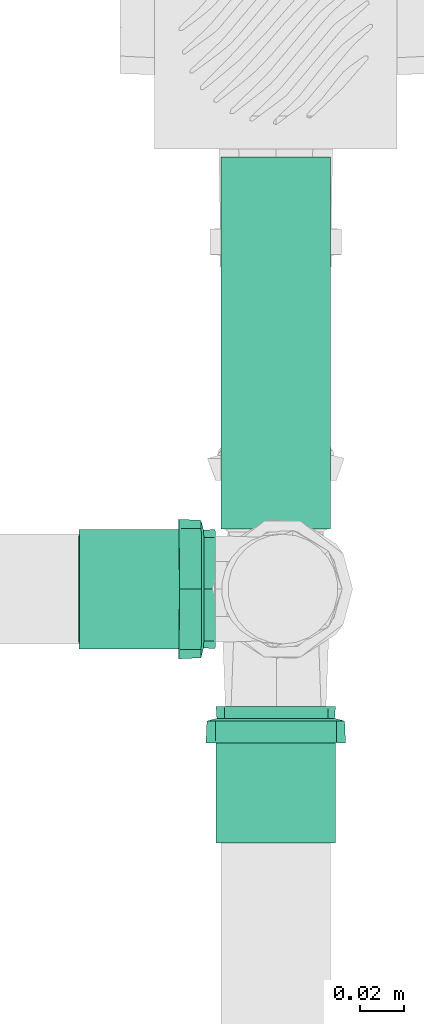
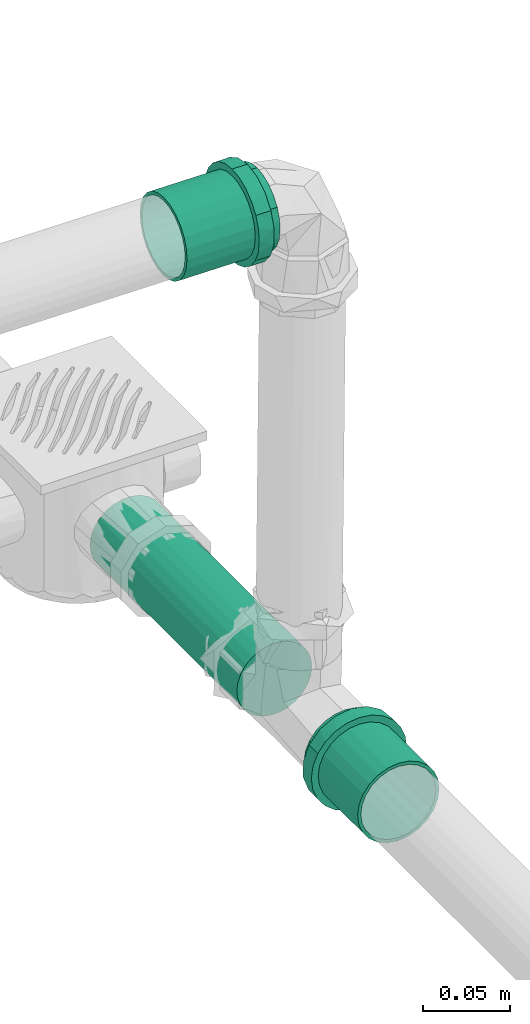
# One storey, part 184 of 589: 2 flow fittings, 1 flow segment.
"""IFC2X3 building model written with IfcOpenShell, lengths in millimetres."""

from ifc_helpers import new_model, entity, si_unit, converted_unit, derived_unit, direction, frame, origin, origin_2d_with_axis, place, context, subcontext, project, spatial, circle, extrude, faceted_brep, source, transform, mapped, material, type_object, type_shapes, element, save


model = new_model("IFC2X3")

# Units and contexts
model_context = context("Model", 3, precision=0.01, world=origin(), true_north=direction((6.123031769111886e-17, 1.0)))
body_context = subcontext(model_context, "Body", "Model", "MODEL_VIEW")
ifc_project = project(units=[si_unit("LENGTHUNIT", "METRE", prefix="MILLI"), si_unit("AREAUNIT", "SQUARE_METRE"), si_unit("VOLUMEUNIT", "CUBIC_METRE"), converted_unit("PLANEANGLEUNIT", "DEGREE", entity("IfcRatioMeasure", 0.017453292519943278), si_unit("PLANEANGLEUNIT", "RADIAN"), dimensions=[0, 0, 0, 0, 0, 0, 0]), si_unit("MASSUNIT", "GRAM", prefix="KILO"), derived_unit("MASSDENSITYUNIT", [(si_unit("MASSUNIT", "GRAM", prefix="KILO"), 1), (si_unit("LENGTHUNIT", "METRE"), -3)]), derived_unit("IONCONCENTRATIONUNIT", [(si_unit("MASSUNIT", "GRAM", prefix="KILO"), 1), (si_unit("LENGTHUNIT", "METRE"), -3)]), derived_unit("MOMENTOFINERTIAUNIT", [(si_unit("LENGTHUNIT", "METRE"), 4)]), si_unit("TIMEUNIT", "SECOND"), si_unit("FREQUENCYUNIT", "HERTZ"), si_unit("THERMODYNAMICTEMPERATUREUNIT", "DEGREE_CELSIUS"), derived_unit("THERMALTRANSMITTANCEUNIT", [(si_unit("MASSUNIT", "GRAM", prefix="KILO"), 1), (si_unit("THERMODYNAMICTEMPERATUREUNIT", "KELVIN"), -1), (si_unit("TIMEUNIT", "SECOND"), -3)]), derived_unit("THERMALCONDUCTANCEUNIT", [(si_unit("MASSUNIT", "GRAM", prefix="KILO"), 1), (si_unit("THERMODYNAMICTEMPERATUREUNIT", "KELVIN"), -1), (si_unit("TIMEUNIT", "SECOND"), -3), (si_unit("LENGTHUNIT", "METRE"), 1)]), derived_unit("VOLUMETRICFLOWRATEUNIT", [(si_unit("LENGTHUNIT", "METRE"), 3), (si_unit("TIMEUNIT", "SECOND"), -1)]), derived_unit("MASSFLOWRATEUNIT", [(si_unit("MASSUNIT", "GRAM", prefix="KILO"), 1), (si_unit("TIMEUNIT", "SECOND"), -1)]), derived_unit("ROTATIONALFREQUENCYUNIT", [(si_unit("TIMEUNIT", "SECOND"), -1)]), si_unit("ELECTRICCURRENTUNIT", "AMPERE"), si_unit("ELECTRICVOLTAGEUNIT", "VOLT"), si_unit("POWERUNIT", "WATT"), si_unit("FORCEUNIT", "NEWTON", prefix="KILO"), si_unit("ILLUMINANCEUNIT", "LUX"), si_unit("LUMINOUSFLUXUNIT", "LUMEN"), si_unit("LUMINOUSINTENSITYUNIT", "CANDELA"), derived_unit("USERDEFINED", [(si_unit("MASSUNIT", "GRAM", prefix="KILO"), -1), (si_unit("LENGTHUNIT", "METRE"), -2), (si_unit("TIMEUNIT", "SECOND"), 3), (si_unit("LUMINOUSFLUXUNIT", "LUMEN"), 1)]), derived_unit("USERDEFINED", [(si_unit("MASSUNIT", "GRAM", prefix="KILO"), 1), (si_unit("TIMEUNIT", "SECOND"), -3), (si_unit("LENGTHUNIT", "METRE"), 3), (si_unit("ELECTRICCURRENTUNIT", "AMPERE"), -2)]), derived_unit("SOUNDPOWERUNIT", [(si_unit("MASSUNIT", "GRAM", prefix="KILO"), 1), (si_unit("TIMEUNIT", "SECOND"), -3), (si_unit("LENGTHUNIT", "METRE"), 2)]), derived_unit("SOUNDPRESSUREUNIT", [(si_unit("MASSUNIT", "GRAM", prefix="KILO"), 1), (si_unit("LENGTHUNIT", "METRE"), -1), (si_unit("TIMEUNIT", "SECOND"), -2)]), derived_unit("LINEARVELOCITYUNIT", [(si_unit("LENGTHUNIT", "METRE"), 1), (si_unit("TIMEUNIT", "SECOND"), -1)]), si_unit("PRESSUREUNIT", "PASCAL"), derived_unit("USERDEFINED", [(si_unit("MASSUNIT", "GRAM", prefix="KILO"), 1), (si_unit("LENGTHUNIT", "METRE"), -2), (si_unit("TIMEUNIT", "SECOND"), -2)]), derived_unit("LINEARFORCEUNIT", [(si_unit("MASSUNIT", "GRAM", prefix="KILO"), 1), (si_unit("TIMEUNIT", "SECOND"), -2)]), derived_unit("PLANARFORCEUNIT", [(si_unit("MASSUNIT", "GRAM", prefix="KILO"), 1), (si_unit("LENGTHUNIT", "METRE"), -1), (si_unit("TIMEUNIT", "SECOND"), -2)]), derived_unit("SPECIFICHEATCAPACITYUNIT", [(si_unit("THERMODYNAMICTEMPERATUREUNIT", "KELVIN"), -1), (si_unit("LENGTHUNIT", "METRE"), 2), (si_unit("TIMEUNIT", "SECOND"), -2)]), derived_unit("HEATINGVALUEUNIT", [(si_unit("LENGTHUNIT", "METRE"), 2), (si_unit("TIMEUNIT", "SECOND"), -2)]), derived_unit("VAPORPERMEABILITYUNIT", [(si_unit("LENGTHUNIT", "METRE"), -1), (si_unit("TIMEUNIT", "SECOND"), 1)]), derived_unit("DYNAMICVISCOSITYUNIT", [(si_unit("MASSUNIT", "GRAM", prefix="KILO"), 1), (si_unit("TIMEUNIT", "SECOND"), -1), (si_unit("LENGTHUNIT", "METRE"), -1)]), derived_unit("THERMALEXPANSIONCOEFFICIENTUNIT", [(si_unit("THERMODYNAMICTEMPERATUREUNIT", "KELVIN"), -1)]), derived_unit("MODULUSOFELASTICITYUNIT", [(si_unit("MASSUNIT", "GRAM", prefix="KILO"), 1), (si_unit("LENGTHUNIT", "METRE"), -1), (si_unit("TIMEUNIT", "SECOND"), -2)]), derived_unit("ISOTHERMALMOISTURECAPACITYUNIT", [(si_unit("LENGTHUNIT", "METRE"), 3), (si_unit("MASSUNIT", "GRAM", prefix="KILO"), -1)]), derived_unit("MOISTUREDIFFUSIVITYUNIT", [(si_unit("TIMEUNIT", "SECOND"), -1), (si_unit("LENGTHUNIT", "METRE"), 2)])], contexts=[model_context])

# Site, building, storey
site_placement = place(None, origin())
site = spatial("IfcSite", under=ifc_project, at=site_placement, Name="Default", CompositionType="ELEMENT")
building_placement = place(site_placement, origin())
building = spatial("IfcBuilding", under=site, at=building_placement, CompositionType="ELEMENT")
storey_placement = place(building_placement, frame((0.0, 0.0, 100.0)))
storey = spatial("IfcBuildingStorey", under=building, at=storey_placement, Name="TÉRREO", CompositionType="ELEMENT", Elevation=100.0)

# Flow segment
pipe_segment_type = type_object("IfcPipeSegmentType", Name="Tipos de tubos:PVC Esgoto Série Normal", PredefinedType="NOTDEFINED")
flow_segment_placement = place(storey_placement, origin())
element("IfcFlowSegment", 1, at=flow_segment_placement, inside=storey, type_object=pipe_segment_type, Name="Tipos de tubos:PVC Esgoto Série Normal", ObjectType="Tipos de tubos:PVC Esgoto Série Normal", context=body_context, shape_type="SweptSolid", body=[
    extrude(circle(Radius=25.0, at=origin_2d_with_axis()), frame((10266.454903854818, -4752.53904253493, -278.334135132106), z_axis=(0.0, 1.0, 0.0), x_axis=(-1.0, 0.0, 0.0)), (0.0, 0.0, 1.0), 169.33170719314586),
])

# Flow fittings
ifc_material = material(Name="PVC Série Normal")
pipe_fitting_type = type_object("IfcPipeFittingType", Name="PVC Esgoto_Luva Simples para Conexão_Rodrigo MEP:Standard", PredefinedType="NOTDEFINED", material=ifc_material)
shared_shape = source(origin(), body_context, "Body", "Brep", [
    faceted_brep([(16.599999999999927, 15.900000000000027, -27.53960784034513), (16.599999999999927, 22.485995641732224, -22.485995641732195), (16.599999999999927, 13.599999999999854, -23.555890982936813), (16.599999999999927, 7.039878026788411, -26.273182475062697), (16.599999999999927, 8.2304456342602, -30.71644127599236), (16.599999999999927, 19.233304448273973, -19.233304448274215), (16.599999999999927, 27.539607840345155, -15.899999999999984), (16.599999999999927, 23.55589098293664, -13.600000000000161), (16.599999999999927, 26.273182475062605, -7.03987802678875), (16.599999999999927, 30.716441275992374, -8.230445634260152), (16.599999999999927, 27.2, 0.0), (16.599999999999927, 31.8, 0.0), (16.599999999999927, 26.273182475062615, 7.0398780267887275), (16.599999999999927, 30.71644127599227, 8.23044563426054), (16.599999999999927, 23.555890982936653, 13.60000000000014), (16.599999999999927, 27.539607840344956, 15.900000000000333), (16.599999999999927, 19.233304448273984, 19.2333044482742), (16.599999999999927, 22.485995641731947, 22.48599564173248), (16.599999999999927, 13.599999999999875, 23.555890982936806), (16.599999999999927, 15.899999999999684, 27.53960784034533), (16.599999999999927, 7.039878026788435, 26.27318247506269), (16.599999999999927, 8.230445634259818, 30.716441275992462), (16.599999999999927, 0.0, 27.2), (16.599999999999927, 0.0, 31.8), (16.599999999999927, -7.039878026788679, 26.273182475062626), (16.599999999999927, -8.230445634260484, 30.716441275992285), (16.599999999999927, -13.600000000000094, 23.555890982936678), (16.599999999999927, -15.900000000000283, 27.53960784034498), (16.599999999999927, -19.23330444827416, 19.233304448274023), (16.599999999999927, -22.485995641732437, 22.48599564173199), (16.599999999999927, -23.55589098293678, 13.59999999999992), (16.599999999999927, -27.539607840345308, 15.899999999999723), (16.599999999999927, -30.71644127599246, 8.230445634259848), (16.599999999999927, -26.273182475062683, 7.039878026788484), (16.599999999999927, -31.8, 0.0), (16.599999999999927, -27.2, 0.0), (16.599999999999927, -30.71644127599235, -8.23044563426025), (16.599999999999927, -26.273182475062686, -7.03987802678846), (16.599999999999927, -27.53960784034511, -15.90000000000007), (16.599999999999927, -23.55589098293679, -13.599999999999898), (16.599999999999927, -22.485995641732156, -22.485995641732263), (16.599999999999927, -19.233304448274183, -19.233304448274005), (16.599999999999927, -15.899999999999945, -27.53960784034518), (16.599999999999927, -13.600000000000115, -23.555890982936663), (16.599999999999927, -8.230445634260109, -30.716441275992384), (16.599999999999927, -7.039878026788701, -26.273182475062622), (16.599999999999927, 0.0, -31.8), (16.599999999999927, 0.0, -27.2), (6.500000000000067, -10.708108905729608, 29.429219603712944), (6.500000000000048, -24.359073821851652, 20.44200387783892), (6.500000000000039, -27.120498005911, 15.6595386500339), (6.50000000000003, -29.881922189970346, 10.877073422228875), (6.500000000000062, -15.89769721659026, 27.540937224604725), (6.500000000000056, -20.128385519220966, 23.991470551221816), (6.50000000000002, -30.840961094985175, 5.438536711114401), (6.5000000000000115, -31.8, 0.0), (6.50000000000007, -5.518520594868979, 31.317501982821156), (6.500000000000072, 5.526376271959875, 31.316116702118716), (6.50000000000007, 0.00392783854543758, 31.316809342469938), (6.500000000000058, 20.134403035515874, 23.986420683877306), (6.500000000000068, 10.715490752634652, 29.42653259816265), (6.500000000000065, 15.904605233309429, 27.536948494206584), (6.500000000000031, 29.8846497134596, 10.869577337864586), (6.500000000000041, 27.12442527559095, 15.652735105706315), (6.5000000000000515, 24.364200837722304, 20.435892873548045), (6.5000000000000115, 31.8, 0.0), (6.499999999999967, 24.364200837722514, -20.435892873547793), (6.499999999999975, 27.12442527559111, -15.652735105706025), (6.499999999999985, 29.884649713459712, -10.869577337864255), (6.4999999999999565, 15.904605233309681, -27.53694849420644), (6.499999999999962, 20.134403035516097, -23.986420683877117), (6.499999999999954, 10.715490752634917, -29.42653259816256), (6.499999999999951, 5.526376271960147, -31.31611670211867), (6.499999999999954, -5.518520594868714, -31.317501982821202), (6.499999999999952, 0.003927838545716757, -31.316809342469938), (6.499999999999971, -20.128385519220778, -23.99147055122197), (6.499999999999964, -15.897697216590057, -27.54093722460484), (6.499999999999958, -10.70810890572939, -29.42921960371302), (6.499999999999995, -29.881922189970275, -10.877073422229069), (6.499999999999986, -27.12049800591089, -15.659538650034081), (6.499999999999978, -24.359073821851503, -20.442003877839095), (6.500000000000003, -30.840961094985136, -5.438536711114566), (6.499999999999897, -30.696173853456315, -6.259599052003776), (62.0, 13.600000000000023, -23.55589098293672), (62.0, 19.233304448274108, -19.23330444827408), (62.0, 12.499999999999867, -21.650635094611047), (62.0, 6.470476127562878, -24.14814565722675), (62.0, 7.039878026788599, -26.273182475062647), (62.0, 17.677669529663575, -17.677669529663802), (62.0, 23.55589098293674, -13.599999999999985), (62.0, 21.65063509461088, -12.50000000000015), (62.0, 24.148145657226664, -6.470476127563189), (62.0, 26.27318247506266, -7.039878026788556), (62.0, 25.0, 0.0), (62.0, 27.2, 0.0), (62.0, 24.148145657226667, 6.4704761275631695), (62.0, 26.273182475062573, 7.03987802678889), (62.0, 21.650635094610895, 12.500000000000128), (62.0, 23.555890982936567, 13.600000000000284), (62.0, 17.67766952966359, 17.67766952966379), (62.0, 19.233304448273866, 19.233304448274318), (62.0, 12.499999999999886, 21.650635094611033), (62.0, 13.59999999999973, 23.55589098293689), (62.0, 6.4704761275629, 24.14814565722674), (62.0, 7.039878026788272, 26.273182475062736), (62.0, 0.0, 25.0), (62.0, 0.0, 27.2), (62.0, -6.470476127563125, 24.148145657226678), (62.0, -7.039878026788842, 26.273182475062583), (62.0, -12.500000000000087, 21.650635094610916), (62.0, -13.600000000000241, 23.555890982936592), (62.0, -17.677669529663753, 17.677669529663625), (62.0, -19.233304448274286, 19.2333044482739), (62.0, -21.65063509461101, 12.499999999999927), (62.0, -23.555890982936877, 13.599999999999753), (62.0, -26.27318247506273, 7.039878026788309), (62.0, -24.14814565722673, 6.470476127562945), (62.0, -27.2, 0.0), (62.0, -25.0, 0.0), (62.0, -26.27318247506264, -7.0398780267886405), (62.0, -24.148145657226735, -6.470476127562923), (62.0, -23.5558909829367, -13.600000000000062), (62.0, -21.650635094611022, -12.499999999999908), (62.0, -19.233304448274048, -19.233304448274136), (62.0, -17.67766952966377, -17.677669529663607), (62.0, -13.599999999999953, -23.555890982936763), (62.0, -12.500000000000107, -21.650635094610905), (62.0, -7.039878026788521, -26.27318247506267), (62.0, -6.470476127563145, -24.148145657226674), (62.0, 0.0, -27.2), (62.0, 0.0, -25.0), (0.0, 12.499999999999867, -21.650635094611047), (0.0, 19.233304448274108, -19.23330444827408), (0.0, 13.600000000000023, -23.55589098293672), (0.0, 6.470476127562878, -24.14814565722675), (0.0, 17.677669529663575, -17.677669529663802), (0.0, 23.55589098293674, -13.599999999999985), (0.0, 21.65063509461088, -12.50000000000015), (0.0, 24.148145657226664, -6.470476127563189), (0.0, 26.27318247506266, -7.039878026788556), (0.0, 25.0, 0.0), (0.0, 27.2, 0.0), (0.0, 24.148145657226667, 6.4704761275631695), (0.0, 26.273182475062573, 7.03987802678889), (0.0, 21.650635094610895, 12.500000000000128), (0.0, 23.555890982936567, 13.600000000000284), (0.0, 17.67766952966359, 17.67766952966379), (0.0, 19.233304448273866, 19.233304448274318), (0.0, 12.499999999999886, 21.650635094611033), (0.0, 13.59999999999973, 23.55589098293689), (0.0, 6.4704761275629, 24.14814565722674), (0.0, 7.039878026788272, 26.273182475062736), (0.0, 0.0, 25.0), (0.0, 0.0, 27.2), (0.0, -6.470476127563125, 24.148145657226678), (0.0, -7.039878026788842, 26.273182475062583), (0.0, -12.500000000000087, 21.650635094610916), (0.0, -13.600000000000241, 23.555890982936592), (0.0, -17.677669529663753, 17.677669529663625), (0.0, -19.233304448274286, 19.2333044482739), (0.0, -21.65063509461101, 12.499999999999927), (0.0, -23.555890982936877, 13.599999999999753), (0.0, -26.27318247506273, 7.039878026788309), (0.0, -24.14814565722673, 6.470476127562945), (0.0, -27.2, 0.0), (0.0, -25.0, 0.0), (0.0, -26.27318247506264, -7.0398780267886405), (0.0, -24.148145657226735, -6.470476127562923), (0.0, -23.5558909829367, -13.600000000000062), (0.0, -21.650635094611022, -12.499999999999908), (0.0, -19.233304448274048, -19.233304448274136), (0.0, -17.67766952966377, -17.677669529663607), (0.0, -13.599999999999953, -23.555890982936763), (0.0, -12.500000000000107, -21.650635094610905), (0.0, -7.039878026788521, -26.27318247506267), (0.0, -6.470476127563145, -24.148145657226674), (0.0, 0.0, -27.2), (0.0, 0.0, -25.0), (0.0, 7.039878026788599, -26.273182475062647), (5.300000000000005, -26.37968999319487, 4.651830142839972), (5.299999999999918, -26.25584678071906, 5.354122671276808), (5.300000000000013, -25.559379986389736, 9.303660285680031), (5.300000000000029, -20.835434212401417, 17.48498444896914), (5.300000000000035, -17.216732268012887, 20.521006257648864), (5.300000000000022, -23.19740709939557, 13.394322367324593), (5.3000000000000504, -4.720244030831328, 26.787297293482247), (5.300000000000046, -9.15913717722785, 25.172162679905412), (5.299999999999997, -27.2, 0.0), (5.300000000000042, -13.598030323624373, 23.557028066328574), (5.300000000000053, 9.165451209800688, 25.169864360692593), (5.300000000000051, 13.603939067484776, 23.55361632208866), (5.300000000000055, 4.7269633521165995, 26.786112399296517), (5.300000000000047, 17.221879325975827, 20.516686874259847), (5.300000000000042, 20.839819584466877, 17.479757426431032), (5.3000000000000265, 25.56171296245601, 9.297248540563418), (5.299999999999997, 27.2, 0.0), (5.3000000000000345, 23.20076627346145, 13.388502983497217), (5.300000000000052, 0.003359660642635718, 26.786704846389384), (5.299999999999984, 25.56171296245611, -9.29724854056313), (5.299999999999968, 20.839819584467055, -17.47975742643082), (5.2999999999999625, 17.22187932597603, -20.516686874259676), (5.299999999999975, 23.200766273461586, -13.388502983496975), (5.299999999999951, 4.726963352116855, -26.78611239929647), (5.2999999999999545, 9.165451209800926, -25.169864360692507), (5.299999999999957, 13.603939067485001, -23.553616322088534), (5.29999999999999, -26.379689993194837, -4.651830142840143), (5.299999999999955, -9.159137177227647, -25.17216267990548), (5.299999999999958, -13.5980303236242, -23.55702806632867), (5.299999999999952, -4.720244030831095, -26.787297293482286), (5.299999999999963, -17.216732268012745, -20.52100625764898), (5.299999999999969, -20.83543421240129, -17.484984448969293), (5.299999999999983, -25.559379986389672, -9.303660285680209), (5.299999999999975, -23.197407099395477, -13.394322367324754), (5.299999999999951, 0.003359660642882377, -26.78670484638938), (39.0, -25.0, 0.0), (39.0, 25.0, 0.0)], [[[0, 1, 2]], [[0, 2, 3]], [[3, 4, 0]], [[2, 1, 5]], [[6, 5, 1]], [[7, 5, 6]], [[8, 7, 6]], [[8, 6, 9]], [[8, 9, 10]], [[10, 9, 11]], [[12, 10, 11]], [[12, 11, 13]], [[14, 12, 13]], [[14, 13, 15]], [[16, 14, 15]], [[15, 17, 16]], [[17, 18, 16]], [[17, 19, 18]], [[18, 19, 20]], [[21, 20, 19]], [[20, 21, 22]], [[22, 21, 23]], [[22, 23, 24]], [[24, 23, 25]], [[24, 25, 26]], [[27, 26, 25]], [[27, 28, 26]], [[28, 27, 29]], [[30, 28, 29]], [[31, 30, 29]], [[32, 30, 31]], [[33, 30, 32]], [[33, 32, 34]], [[35, 33, 34]], [[36, 35, 34]], [[36, 37, 35]], [[37, 36, 38]], [[39, 37, 38]], [[39, 38, 40]], [[39, 40, 41]], [[40, 42, 41]], [[41, 42, 43]], [[43, 42, 44]], [[44, 45, 43]], [[46, 45, 44]], [[4, 47, 46]], [[46, 47, 45]], [[4, 3, 47]], [[48, 27, 25]], [[31, 29, 49]], [[31, 49, 50, 51]], [[52, 53, 27]], [[32, 51, 54]], [[54, 55, 34]], [[54, 34, 32]], [[25, 56, 48]], [[49, 29, 53]], [[23, 57, 58, 56]], [[59, 19, 17]], [[27, 53, 29]], [[48, 52, 27]], [[31, 51, 32]], [[57, 23, 21]], [[60, 19, 61]], [[15, 62, 63, 64]], [[19, 60, 21]], [[15, 13, 62]], [[17, 64, 59]], [[57, 21, 60]], [[23, 56, 25]], [[15, 64, 17]], [[13, 65, 62]], [[13, 11, 65]], [[59, 61, 19]], [[65, 11, 9]], [[6, 1, 66]], [[6, 66, 67, 68]], [[69, 70, 0]], [[68, 65, 9]], [[71, 69, 0]], [[71, 0, 4]], [[4, 72, 71]], [[66, 1, 70]], [[46, 73, 74, 72]], [[75, 76, 42]], [[0, 70, 1]], [[75, 42, 40]], [[6, 68, 9]], [[73, 46, 44]], [[77, 42, 76]], [[38, 78, 79, 80]], [[42, 77, 44]], [[38, 36, 78]], [[40, 80, 75]], [[73, 44, 77]], [[46, 72, 4]], [[38, 80, 40]], [[36, 81, 82, 78]], [[55, 81, 34]], [[34, 81, 36]], [[83, 84, 85]], [[83, 85, 86]], [[86, 87, 83]], [[85, 84, 88]], [[89, 88, 84]], [[88, 89, 90]], [[90, 89, 91]], [[92, 91, 89]], [[92, 93, 91]], [[93, 92, 94]], [[95, 93, 94]], [[94, 96, 95]], [[95, 96, 97]], [[98, 97, 96]], [[97, 98, 99]], [[99, 98, 100]], [[101, 99, 100]], [[100, 102, 101]], [[101, 102, 103]], [[104, 103, 102]], [[103, 104, 105]], [[105, 104, 106]], [[105, 106, 107]], [[107, 106, 108]], [[107, 108, 109]], [[110, 109, 108]], [[110, 111, 109]], [[111, 110, 112]], [[112, 113, 111]], [[114, 113, 112]], [[113, 114, 115]], [[115, 116, 113]], [[117, 116, 115]], [[117, 118, 116]], [[119, 118, 117]], [[119, 120, 118]], [[120, 119, 121]], [[121, 122, 120]], [[122, 121, 123]], [[122, 123, 124]], [[123, 125, 124]], [[124, 125, 126]], [[126, 125, 127]], [[127, 128, 126]], [[129, 128, 127]], [[87, 130, 129]], [[129, 130, 128]], [[87, 86, 130]], [[131, 132, 133]], [[134, 131, 133]], [[135, 132, 131]], [[132, 135, 136]], [[137, 136, 135]], [[138, 136, 137]], [[136, 138, 139]], [[138, 140, 139]], [[141, 139, 140]], [[141, 140, 142]], [[142, 143, 141]], [[144, 143, 142]], [[143, 144, 145]], [[146, 145, 144]], [[147, 145, 146]], [[147, 146, 148]], [[148, 149, 147]], [[150, 149, 148]], [[149, 150, 151]], [[152, 151, 150]], [[153, 151, 152]], [[154, 153, 152]], [[155, 153, 154]], [[156, 155, 154]], [[155, 156, 157]], [[156, 158, 157]], [[159, 157, 158]], [[158, 160, 159]], [[159, 160, 161]], [[162, 161, 160]], [[160, 163, 162]], [[162, 163, 164]], [[163, 165, 164]], [[164, 165, 166]], [[165, 167, 166]], [[168, 166, 167]], [[167, 169, 168]], [[170, 168, 169]], [[171, 170, 169]], [[171, 172, 170]], [[173, 172, 171]], [[174, 172, 173]], [[173, 175, 174]], [[174, 175, 176]], [[175, 177, 176]], [[177, 134, 178]], [[176, 177, 178]], [[133, 178, 134]], [[162, 179, 180, 181]], [[159, 182, 183]], [[182, 161, 181, 184]], [[185, 155, 186]], [[161, 162, 181]], [[187, 179, 164]], [[183, 188, 157]], [[183, 157, 159]], [[161, 182, 159]], [[189, 190, 149]], [[189, 149, 151]], [[157, 188, 186]], [[157, 186, 155]], [[153, 155, 185]], [[164, 179, 162]], [[151, 191, 189]], [[147, 192, 193]], [[143, 194, 195]], [[194, 145, 193, 196]], [[143, 195, 141]], [[10, 12, 96, 94]], [[149, 192, 147]], [[153, 185, 197, 191]], [[153, 191, 151]], [[145, 147, 193]], [[190, 192, 149]], [[145, 194, 143]], [[139, 195, 198]], [[132, 199, 200]], [[199, 136, 198, 201]], [[202, 178, 203]], [[136, 139, 198]], [[139, 141, 195]], [[92, 8, 10, 94]], [[133, 203, 178]], [[200, 204, 133]], [[136, 199, 132]], [[205, 164, 166]], [[206, 207, 172]], [[133, 204, 203]], [[206, 172, 174]], [[176, 178, 202]], [[200, 133, 132]], [[174, 208, 206]], [[170, 209, 210]], [[166, 211, 205]], [[211, 168, 210, 212]], [[168, 211, 166]], [[172, 209, 170]], [[176, 202, 213, 208]], [[176, 208, 174]], [[168, 170, 210]], [[207, 209, 172]], [[205, 187, 164]], [[116, 118, 214, 165, 163]], [[156, 109, 111, 158]], [[111, 113, 160, 158]], [[113, 116, 163, 160]], [[107, 109, 156, 154]], [[154, 152, 105, 107]], [[103, 105, 152, 150]], [[103, 150, 148, 101]], [[142, 95, 97, 144]], [[97, 99, 146, 144]], [[99, 101, 148, 146]], [[93, 95, 142, 140, 215]], [[215, 140, 138, 91, 93]], [[135, 131, 85, 88]], [[90, 91, 138, 137]], [[90, 137, 135, 88]], [[86, 85, 131, 134]], [[134, 177, 130, 86]], [[128, 130, 177, 175]], [[128, 175, 173, 126]], [[167, 120, 122, 169]], [[122, 124, 171, 169]], [[124, 126, 173, 171]], [[118, 120, 167, 165, 214]], [[211, 78, 82, 81, 55, 187, 205]], [[79, 78, 211, 212, 210, 80]], [[75, 80, 210, 209, 207, 76]], [[207, 206, 208, 73, 77, 76]], [[213, 202, 72, 74, 73, 208]], [[203, 204, 69, 71, 72, 202]], [[198, 195, 65, 68]], [[199, 201, 198, 68, 67, 66]], [[204, 200, 199, 66, 70, 69]], [[195, 194, 62, 65]], [[197, 185, 56, 58, 57, 191]], [[63, 62, 194, 196, 193, 64]], [[57, 60, 61, 190, 189, 191]], [[193, 192, 190, 61, 59, 64]], [[48, 56, 185, 186, 188, 52]], [[187, 55, 54, 51, 181, 180, 179]], [[182, 184, 181, 51, 50, 49]], [[188, 183, 182, 49, 53, 52]], [[30, 33, 115, 114]], [[117, 115, 33, 35]], [[26, 28, 112, 110]], [[114, 112, 28, 30]], [[24, 26, 110, 108]], [[108, 106, 22, 24]], [[18, 20, 104, 102]], [[100, 16, 18, 102]], [[12, 14, 98, 96]], [[100, 98, 14, 16]], [[104, 20, 22, 106]], [[89, 7, 8, 92]], [[83, 87, 3, 2]], [[7, 89, 84, 5]], [[83, 2, 5, 84]], [[87, 129, 47, 3]], [[43, 45, 127, 125]], [[123, 41, 43, 125]], [[37, 39, 121, 119]], [[123, 121, 39, 41]], [[35, 37, 119, 117]], [[127, 45, 47, 129]]]),
])
type_shapes(pipe_fitting_type, [shared_shape])
for number, where, z_axis, x_axis, name in (
    (2, (10238.83944679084, -4779.93904253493, 80.27615457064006), (0.0, -1.0, 0.0), (-0.9999500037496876, 0.0, 0.0099995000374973), "PVC Esgoto_Luva Simples para Conexão_Rodrigo MEP:Standard"),
    (3, (10266.454903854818, -4833.539042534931, -278.33413513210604), (-0.9999500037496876, 0.0, 0.00999950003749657), (0.0, -1.0, 0.0), "PVC Esgoto_Luva Simples para Conexão_Rodrigo MEP:Standard"),
):
    element("IfcFlowFitting", number, at=place(storey_placement, frame(where, z_axis=z_axis, x_axis=x_axis)), inside=storey, type_object=pipe_fitting_type, material=ifc_material, Name=name, ObjectType="PVC Esgoto_Luva Simples para Conexão_Rodrigo MEP:Standard", context=body_context, shape_type="MappedRepresentation", body=[
        mapped(shared_shape, transform((0.0, 0.0, 0.0), scale=1.0)),
    ])

save(model, "model.ifc")
